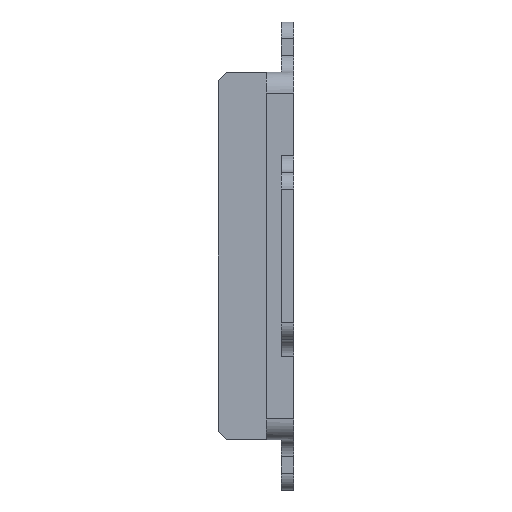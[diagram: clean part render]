
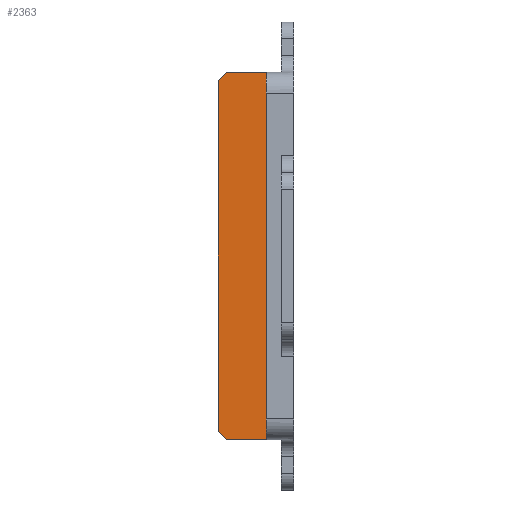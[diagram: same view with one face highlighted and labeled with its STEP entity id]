
A CAD part, left-side view. The second image highlights one B-rep face of the part: STEP entity #2363.
In plain terms, the highlighted planar face has unit normal (-1, 0, 0).
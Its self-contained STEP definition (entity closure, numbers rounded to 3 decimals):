
#267 = CARTESIAN_POINT ( 'NONE',  ( -32.2, 3.3, -21.992 ) ) ;
#568 = DIRECTION ( 'NONE',  ( 0., 1., 0. ) ) ;
#882 = ORIENTED_EDGE ( 'NONE', *, *, #5267, .F. ) ;
#916 = ORIENTED_EDGE ( 'NONE', *, *, #4856, .T. ) ;
#1162 = CARTESIAN_POINT ( 'NONE',  ( -32.2, 3.3, -22. ) ) ;
#1308 = EDGE_CURVE ( 'NONE', #1980, #3559, #1909, .T. ) ;
#1330 = DIRECTION ( 'NONE',  ( 1., 0., 0. ) ) ;
#1376 = EDGE_CURVE ( 'NONE', #2657, #4424, #2607, .T. ) ;
#1620 = LINE ( 'NONE', #1162, #5386 ) ;
#1909 = LINE ( 'NONE', #5547, #4463 ) ;
#1980 = VERTEX_POINT ( 'NONE', #3932 ) ;
#2091 = CARTESIAN_POINT ( 'NONE',  ( -32.2, 8.008, 21.992 ) ) ;
#2116 = CARTESIAN_POINT ( 'NONE',  ( -32.2, 9., 21.992 ) ) ;
#2186 = CARTESIAN_POINT ( 'NONE',  ( -32.2, 3.3, 21.992 ) ) ;
#2221 = FACE_OUTER_BOUND ( 'NONE', #5018, .T. ) ;
#2363 = ADVANCED_FACE ( 'NONE', ( #2221 ), #3827, .F. ) ;
#2492 = LINE ( 'NONE', #4492, #3662 ) ;
#2525 = DIRECTION ( 'NONE',  ( 0., -1., 0. ) ) ;
#2578 = DIRECTION ( 'NONE',  ( 0., -0.707, -0.707 ) ) ;
#2607 = LINE ( 'NONE', #2116, #5293 ) ;
#2657 = VERTEX_POINT ( 'NONE', #2186 ) ;
#3065 = VERTEX_POINT ( 'NONE', #3859 ) ;
#3347 = CARTESIAN_POINT ( 'NONE',  ( -32.2, 9., -21. ) ) ;
#3541 = LINE ( 'NONE', #3724, #6074 ) ;
#3559 = VERTEX_POINT ( 'NONE', #3347 ) ;
#3630 = CARTESIAN_POINT ( 'NONE',  ( -32.2, 9., -21. ) ) ;
#3662 = VECTOR ( 'NONE', #2525, 1000. ) ;
#3724 = CARTESIAN_POINT ( 'NONE',  ( -32.2, 9., 21. ) ) ;
#3827 = PLANE ( 'NONE',  #5409 ) ;
#3859 = CARTESIAN_POINT ( 'NONE',  ( -32.2, 8.008, -21.992 ) ) ;
#3932 = CARTESIAN_POINT ( 'NONE',  ( -32.2, 9., 21. ) ) ;
#4103 = DIRECTION ( 'NONE',  ( 0., 0.707, -0.707 ) ) ;
#4115 = EDGE_CURVE ( 'NONE', #3065, #5499, #2492, .T. ) ;
#4424 = VERTEX_POINT ( 'NONE', #2091 ) ;
#4463 = VECTOR ( 'NONE', #5511, 1000. ) ;
#4492 = CARTESIAN_POINT ( 'NONE',  ( -32.2, 9., -21.992 ) ) ;
#4856 = EDGE_CURVE ( 'NONE', #3559, #3065, #6200, .T. ) ;
#5018 = EDGE_LOOP ( 'NONE', ( #916, #5799, #882, #5185, #6000, #5712 ) ) ;
#5167 = DIRECTION ( 'NONE',  ( 0., 0., -1. ) ) ;
#5185 = ORIENTED_EDGE ( 'NONE', *, *, #1376, .T. ) ;
#5267 = EDGE_CURVE ( 'NONE', #2657, #5499, #1620, .T. ) ;
#5293 = VECTOR ( 'NONE', #568, 1000. ) ;
#5386 = VECTOR ( 'NONE', #5549, 1000. ) ;
#5409 = AXIS2_PLACEMENT_3D ( 'NONE', #5815, #1330, #5167 ) ;
#5499 = VERTEX_POINT ( 'NONE', #267 ) ;
#5511 = DIRECTION ( 'NONE',  ( 0., 0., -1. ) ) ;
#5547 = CARTESIAN_POINT ( 'NONE',  ( -32.2, 9., -22. ) ) ;
#5549 = DIRECTION ( 'NONE',  ( 0., 0., -1. ) ) ;
#5712 = ORIENTED_EDGE ( 'NONE', *, *, #1308, .T. ) ;
#5799 = ORIENTED_EDGE ( 'NONE', *, *, #4115, .T. ) ;
#5815 = CARTESIAN_POINT ( 'NONE',  ( -32.2, 3.3, -22. ) ) ;
#6000 = ORIENTED_EDGE ( 'NONE', *, *, #6130, .T. ) ;
#6074 = VECTOR ( 'NONE', #4103, 1000. ) ;
#6130 = EDGE_CURVE ( 'NONE', #4424, #1980, #3541, .T. ) ;
#6200 = LINE ( 'NONE', #3630, #6430 ) ;
#6430 = VECTOR ( 'NONE', #2578, 1000. ) ;
